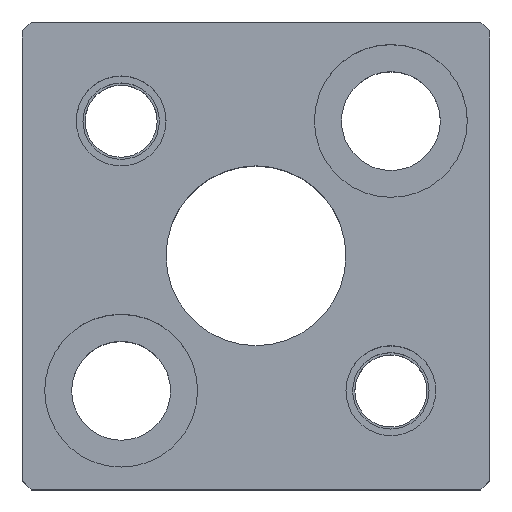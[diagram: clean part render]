
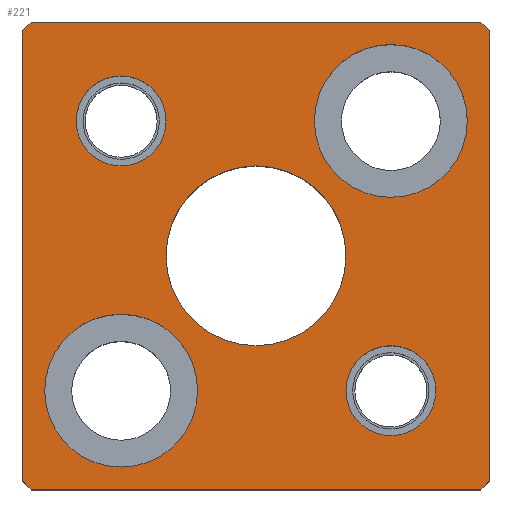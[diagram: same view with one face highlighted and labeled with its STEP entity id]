
A CAD part, top view. The second image highlights one B-rep face of the part: STEP entity #221.
In plain terms, the highlighted planar face has unit normal (0, 0, 1).
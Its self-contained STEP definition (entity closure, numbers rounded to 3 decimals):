
#103=FACE_BOUND('',#329,.T.);
#104=FACE_BOUND('',#330,.T.);
#105=FACE_BOUND('',#331,.T.);
#106=FACE_BOUND('',#332,.T.);
#107=FACE_BOUND('',#333,.T.);
#108=FACE_BOUND('',#334,.T.);
#157=CIRCLE('',#928,8.5);
#159=CIRCLE('',#931,8.5);
#161=CIRCLE('',#935,8.5);
#163=CIRCLE('',#938,8.5);
#165=CIRCLE('',#942,5.);
#166=CIRCLE('',#943,5.);
#167=CIRCLE('',#944,5.);
#168=CIRCLE('',#945,5.);
#169=CIRCLE('',#946,10.);
#170=CIRCLE('',#947,10.);
#221=ADVANCED_FACE('',(#103,#104,#105,#106,#107,#108),#260,.T.);
#260=PLANE('',#948);
#329=EDGE_LOOP('',(#469,#470,#471,#472,#473,#474,#475,#476));
#330=EDGE_LOOP('',(#477,#478));
#331=EDGE_LOOP('',(#479,#480));
#332=EDGE_LOOP('',(#481,#482));
#333=EDGE_LOOP('',(#483,#484));
#334=EDGE_LOOP('',(#485,#486));
#469=ORIENTED_EDGE('',*,*,#683,.T.);
#470=ORIENTED_EDGE('',*,*,#680,.T.);
#471=ORIENTED_EDGE('',*,*,#698,.T.);
#472=ORIENTED_EDGE('',*,*,#695,.T.);
#473=ORIENTED_EDGE('',*,*,#692,.T.);
#474=ORIENTED_EDGE('',*,*,#676,.T.);
#475=ORIENTED_EDGE('',*,*,#673,.T.);
#476=ORIENTED_EDGE('',*,*,#669,.T.);
#477=ORIENTED_EDGE('',*,*,#727,.F.);
#478=ORIENTED_EDGE('',*,*,#728,.F.);
#479=ORIENTED_EDGE('',*,*,#729,.F.);
#480=ORIENTED_EDGE('',*,*,#730,.F.);
#481=ORIENTED_EDGE('',*,*,#725,.F.);
#482=ORIENTED_EDGE('',*,*,#721,.F.);
#483=ORIENTED_EDGE('',*,*,#719,.F.);
#484=ORIENTED_EDGE('',*,*,#715,.F.);
#485=ORIENTED_EDGE('',*,*,#731,.T.);
#486=ORIENTED_EDGE('',*,*,#732,.T.);
#595=VERTEX_POINT('',#1264);
#596=VERTEX_POINT('',#1266);
#599=VERTEX_POINT('',#1274);
#601=VERTEX_POINT('',#1280);
#604=VERTEX_POINT('',#1287);
#605=VERTEX_POINT('',#1289);
#612=VERTEX_POINT('',#1312);
#614=VERTEX_POINT('',#1318);
#625=VERTEX_POINT('',#1357);
#626=VERTEX_POINT('',#1358);
#629=VERTEX_POINT('',#1370);
#630=VERTEX_POINT('',#1371);
#633=VERTEX_POINT('',#1383);
#634=VERTEX_POINT('',#1384);
#635=VERTEX_POINT('',#1387);
#636=VERTEX_POINT('',#1388);
#637=VERTEX_POINT('',#1391);
#638=VERTEX_POINT('',#1392);
#669=EDGE_CURVE('',#596,#595,#781,.T.);
#673=EDGE_CURVE('',#599,#596,#785,.T.);
#676=EDGE_CURVE('',#601,#599,#788,.T.);
#680=EDGE_CURVE('',#605,#604,#792,.T.);
#683=EDGE_CURVE('',#595,#605,#795,.T.);
#692=EDGE_CURVE('',#612,#601,#804,.T.);
#695=EDGE_CURVE('',#614,#612,#807,.T.);
#698=EDGE_CURVE('',#604,#614,#810,.T.);
#715=EDGE_CURVE('',#625,#626,#157,.T.);
#719=EDGE_CURVE('',#626,#625,#159,.T.);
#721=EDGE_CURVE('',#629,#630,#161,.T.);
#725=EDGE_CURVE('',#630,#629,#163,.T.);
#727=EDGE_CURVE('',#633,#634,#165,.T.);
#728=EDGE_CURVE('',#634,#633,#166,.T.);
#729=EDGE_CURVE('',#635,#636,#167,.T.);
#730=EDGE_CURVE('',#636,#635,#168,.T.);
#731=EDGE_CURVE('',#637,#638,#169,.T.);
#732=EDGE_CURVE('',#638,#637,#170,.T.);
#781=LINE('',#1265,#843);
#785=LINE('',#1273,#847);
#788=LINE('',#1279,#850);
#792=LINE('',#1288,#854);
#795=LINE('',#1294,#857);
#804=LINE('',#1311,#866);
#807=LINE('',#1317,#869);
#810=LINE('',#1323,#872);
#843=VECTOR('',#1005,1.);
#847=VECTOR('',#1011,1.);
#850=VECTOR('',#1016,1.);
#854=VECTOR('',#1022,1.);
#857=VECTOR('',#1027,1.);
#866=VECTOR('',#1042,1.);
#869=VECTOR('',#1047,1.);
#872=VECTOR('',#1052,1.);
#928=AXIS2_PLACEMENT_3D('',#1356,#1091,#1092);
#931=AXIS2_PLACEMENT_3D('',#1365,#1099,#1100);
#935=AXIS2_PLACEMENT_3D('',#1369,#1107,#1108);
#938=AXIS2_PLACEMENT_3D('',#1378,#1115,#1116);
#942=AXIS2_PLACEMENT_3D('',#1382,#1123,#1124);
#943=AXIS2_PLACEMENT_3D('',#1385,#1125,#1126);
#944=AXIS2_PLACEMENT_3D('',#1386,#1127,#1128);
#945=AXIS2_PLACEMENT_3D('',#1389,#1129,#1130);
#946=AXIS2_PLACEMENT_3D('',#1390,#1131,#1132);
#947=AXIS2_PLACEMENT_3D('',#1393,#1133,#1134);
#948=AXIS2_PLACEMENT_3D('',#1394,#1135,#1136);
#1005=DIRECTION('',(1.,0.,0.));
#1011=DIRECTION('',(0.707,-0.707,0.));
#1016=DIRECTION('',(0.,-1.,0.));
#1022=DIRECTION('',(0.,1.,0.));
#1027=DIRECTION('',(0.707,0.707,0.));
#1042=DIRECTION('',(-0.707,-0.707,0.));
#1047=DIRECTION('',(-1.,0.,0.));
#1052=DIRECTION('',(-0.707,0.707,0.));
#1091=DIRECTION('',(0.,0.,1.));
#1092=DIRECTION('',(-1.,0.,0.));
#1099=DIRECTION('',(0.,0.,1.));
#1100=DIRECTION('',(1.,0.,0.));
#1107=DIRECTION('',(0.,0.,1.));
#1108=DIRECTION('',(-1.,0.,0.));
#1115=DIRECTION('',(0.,0.,1.));
#1116=DIRECTION('',(1.,0.,0.));
#1123=DIRECTION('',(0.,0.,1.));
#1124=DIRECTION('',(1.,0.,0.));
#1125=DIRECTION('',(0.,0.,1.));
#1126=DIRECTION('',(-1.,0.,0.));
#1127=DIRECTION('',(0.,0.,1.));
#1128=DIRECTION('',(1.,0.,0.));
#1129=DIRECTION('',(0.,0.,1.));
#1130=DIRECTION('',(-1.,0.,0.));
#1131=DIRECTION('',(0.,0.,-1.));
#1132=DIRECTION('',(-1.,0.,0.));
#1133=DIRECTION('',(0.,0.,-1.));
#1134=DIRECTION('',(1.,0.,0.));
#1135=DIRECTION('',(0.,0.,1.));
#1136=DIRECTION('',(-1.,0.,0.));
#1264=CARTESIAN_POINT('',(25.,-26.,30.));
#1265=CARTESIAN_POINT('',(-25.,-26.,30.));
#1266=CARTESIAN_POINT('',(-25.,-26.,30.));
#1273=CARTESIAN_POINT('',(-25.,-26.,30.));
#1274=CARTESIAN_POINT('',(-26.,-25.,30.));
#1279=CARTESIAN_POINT('',(-26.,25.,30.));
#1280=CARTESIAN_POINT('',(-26.,25.,30.));
#1287=CARTESIAN_POINT('',(26.,25.,30.));
#1288=CARTESIAN_POINT('',(26.,25.,30.));
#1289=CARTESIAN_POINT('',(26.,-25.,30.));
#1294=CARTESIAN_POINT('',(26.,-25.,30.));
#1311=CARTESIAN_POINT('',(-26.,25.,30.));
#1312=CARTESIAN_POINT('',(-25.,26.,30.));
#1317=CARTESIAN_POINT('',(-25.,26.,30.));
#1318=CARTESIAN_POINT('',(25.,26.,30.));
#1323=CARTESIAN_POINT('',(25.,26.,30.));
#1356=CARTESIAN_POINT('',(-15.,-15.,30.));
#1357=CARTESIAN_POINT('',(-15.,-23.5,30.));
#1358=CARTESIAN_POINT('',(-15.,-6.5,30.));
#1365=CARTESIAN_POINT('',(-15.,-15.,30.));
#1369=CARTESIAN_POINT('',(15.,15.,30.));
#1370=CARTESIAN_POINT('',(15.,6.5,30.));
#1371=CARTESIAN_POINT('',(15.,23.5,30.));
#1378=CARTESIAN_POINT('',(15.,15.,30.));
#1382=CARTESIAN_POINT('',(-15.,15.,30.));
#1383=CARTESIAN_POINT('',(-15.,20.,30.));
#1384=CARTESIAN_POINT('',(-15.,10.,30.));
#1385=CARTESIAN_POINT('',(-15.,15.,30.));
#1386=CARTESIAN_POINT('',(15.,-15.,30.));
#1387=CARTESIAN_POINT('',(15.,-10.,30.));
#1388=CARTESIAN_POINT('',(15.,-20.,30.));
#1389=CARTESIAN_POINT('',(15.,-15.,30.));
#1390=CARTESIAN_POINT('',(0.,0.,30.));
#1391=CARTESIAN_POINT('',(0.,10.,30.));
#1392=CARTESIAN_POINT('',(0.,-10.,30.));
#1393=CARTESIAN_POINT('',(0.,0.,30.));
#1394=CARTESIAN_POINT('',(25.,-26.,30.));
